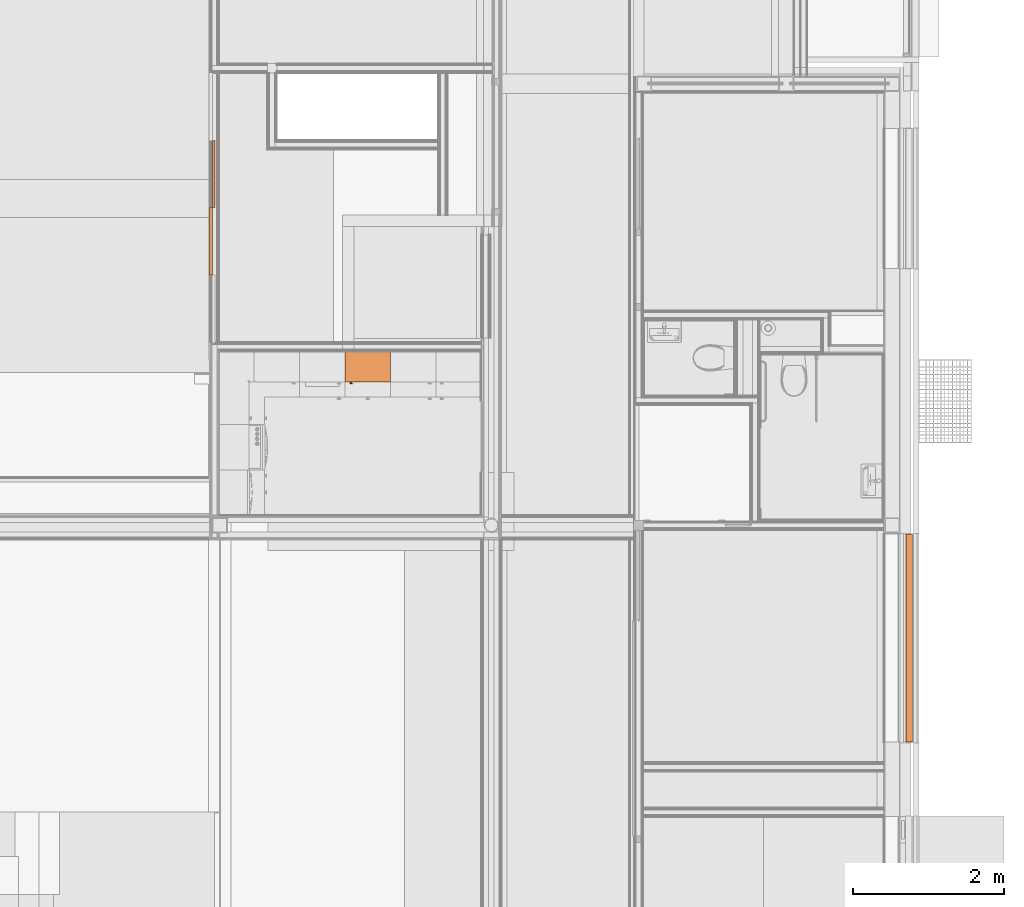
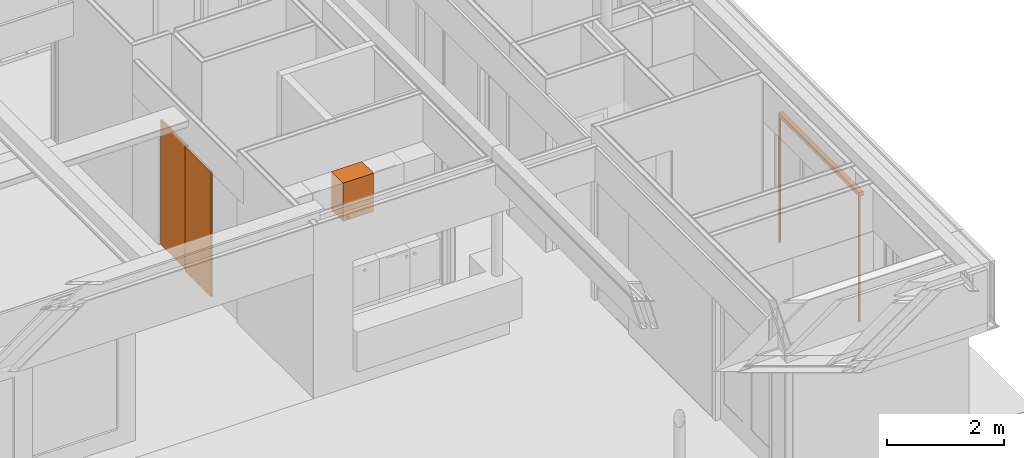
# One storey, part 132 of 165: 4 proxies.
"""IFC2X3 building model written with IfcOpenShell, lengths in millimetres."""

from ifc_helpers import new_model, entity, si_unit, converted_unit, derived_unit, money_unit, direction, frame, origin_with_axes, place, context, subcontext, project, spatial, open_shell, faceted_brep, surface_model, source, transform, mapped, type_object, type_shapes, element, save


model = new_model("IFC2X3")

# Units and contexts
model_context = context("Model", 3, precision=0.01, world=origin_with_axes(), true_north=direction((0.0, 1.0)))
body_context = subcontext(model_context, "Body", "Model", "MODEL_VIEW")
ifc_project = project(units=[si_unit("LENGTHUNIT", "METRE", prefix="MILLI"), si_unit("AREAUNIT", "SQUARE_METRE"), si_unit("VOLUMEUNIT", "CUBIC_METRE"), converted_unit("PLANEANGLEUNIT", "DEGREE", entity("IfcPlaneAngleMeasure", 0.0174532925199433), si_unit("PLANEANGLEUNIT", "RADIAN"), dimensions=[0, 0, 0, 0, 0, 0, 0]), money_unit("EUR"), converted_unit("TIMEUNIT", "Year", entity("IfcTimeMeasure", 31556926.0), si_unit("TIMEUNIT", "SECOND"), dimensions=[0, 0, 1, 0, 0, 0, 0]), si_unit("MASSUNIT", "GRAM", prefix="KILO"), si_unit("THERMODYNAMICTEMPERATUREUNIT", "DEGREE_CELSIUS"), si_unit("LUMINOUSINTENSITYUNIT", "LUMEN"), si_unit("ENERGYUNIT", "JOULE", prefix="MEGA"), derived_unit("THERMALCONDUCTANCEUNIT", [(si_unit("POWERUNIT", "WATT"), 1), (si_unit("LENGTHUNIT", "METRE"), -1), (si_unit("THERMODYNAMICTEMPERATUREUNIT", "KELVIN"), -1)]), derived_unit("SPECIFICHEATCAPACITYUNIT", [(si_unit("ENERGYUNIT", "JOULE"), 1), (si_unit("MASSUNIT", "GRAM", prefix="KILO"), -1), (si_unit("THERMODYNAMICTEMPERATUREUNIT", "KELVIN"), -1)]), derived_unit("MASSDENSITYUNIT", [(si_unit("MASSUNIT", "GRAM", prefix="KILO"), 1), (si_unit("VOLUMEUNIT", "CUBIC_METRE"), -1)])], contexts=[model_context])

# Site, building, storey
site_placement = place(None, origin_with_axes())
site = spatial("IfcSite", under=ifc_project, at=site_placement, Name="Site", CompositionType="ELEMENT")
building_placement = place(site_placement, origin_with_axes())
building = spatial("IfcBuilding", under=site, at=building_placement, Name="Naam gebouw", CompositionType="ELEMENT")
storey_placement = place(building_placement, origin_with_axes())
storey = spatial("IfcBuildingStorey", under=building, at=storey_placement, Name="Begane grond", CompositionType="ELEMENT", Elevation=0.0)

# Proxies
building_element_proxy_type_1 = type_object("IfcBuildingElementProxyType", Name="gevelbekleding", PredefinedType="NOTDEFINED")
shared_shape_1 = source(origin_with_axes(), body_context, "Body", "Brep", [
    faceted_brep([(-445.0, 0.0, 0.0), (-440.0, 0.0, 0.0), (-440.0, -35.0, 0.0), (-445.0, -35.0, 0.0), (-445.0, 0.0, 2600.0), (-440.0, 0.0, 2600.0), (-440.0, -35.0, 2600.0), (-445.0, -35.0, 2600.0)], [[[0, 1, 2, 3]], [[0, 4, 5, 1]], [[1, 5, 6, 2]], [[3, 2, 6, 7]], [[4, 0, 3, 7]], [[5, 4, 7, 6]]]),
    faceted_brep([(445.0, 0.0, 0.0), (445.0, 0.0, 2600.0), (445.0, -35.0, 2600.0), (445.0, -35.0, 0.0), (440.0, 0.0, 0.0), (440.0, 0.0, 2600.0), (440.0, -35.0, 2600.0), (440.0, -35.0, 0.0)], [[[0, 1, 2, 3]], [[0, 4, 5, 1]], [[1, 5, 6, 2]], [[3, 2, 6, 7]], [[4, 0, 3, 7]], [[5, 4, 7, 6]]]),
    faceted_brep([(-445.0, 0.0, 0.0), (445.0, 0.0, 0.0), (445.0, -35.0, 0.0), (-445.0, -35.0, 0.0), (-445.0, 0.0, 2600.0), (445.0, 0.0, 2600.0), (445.0, -35.0, 2600.0), (-445.0, -35.0, 2600.0)], [[[0, 1, 2, 3]], [[0, 4, 5, 1]], [[1, 5, 6, 2]], [[3, 2, 6, 7]], [[4, 0, 3, 7]], [[5, 4, 7, 6]]]),
])
proxy_1_placement = place(storey_placement, frame((20774.99906281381, 14119.99824205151, 0.0), z_axis=(0.0, 0.0, 1.0), x_axis=(0.0, 1.0, 0.0)))
element("IfcBuildingElementProxy", 1, at=proxy_1_placement, inside=storey, type_object=building_element_proxy_type_1, Name="_-", context=body_context, shape_type="MappedRepresentation", body=[
    mapped(shared_shape_1, transform((445.0000000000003, 0.0, 0.0))),
])
shared_shape_2 = source(origin_with_axes(), body_context, "Body", "Brep", [
    faceted_brep([(445.0, 0.0, 0.0), (445.0, -35.0, 0.0), (440.0, -35.0, 0.0), (440.0, 0.0, 0.0), (445.0, 0.0, 2600.0), (445.0, -35.0, 2600.0), (440.0, -35.0, 2600.0), (440.0, 0.0, 2600.0)], [[[0, 1, 2, 3]], [[4, 5, 1, 0]], [[1, 5, 6, 2]], [[3, 2, 6, 7]], [[0, 3, 7, 4]], [[7, 6, 5, 4]]]),
    faceted_brep([(-445.0, 0.0, 0.0), (-445.0, -35.0, 0.0), (-445.0, -35.0, 2600.0), (-445.0, 0.0, 2600.0), (-440.0, 0.0, 0.0), (-440.0, -35.0, 0.0), (-440.0, -35.0, 2600.0), (-440.0, 0.0, 2600.0)], [[[0, 1, 2, 3]], [[4, 5, 1, 0]], [[1, 5, 6, 2]], [[3, 2, 6, 7]], [[0, 3, 7, 4]], [[7, 6, 5, 4]]]),
    faceted_brep([(445.0, 0.0, 0.0), (445.0, -35.0, 0.0), (-445.0, -35.0, 0.0), (-445.0, 0.0, 0.0), (445.0, 0.0, 2600.0), (445.0, -35.0, 2600.0), (-445.0, -35.0, 2600.0), (-445.0, 0.0, 2600.0)], [[[0, 1, 2, 3]], [[4, 5, 1, 0]], [[1, 5, 6, 2]], [[3, 2, 6, 7]], [[0, 3, 7, 4]], [[7, 6, 5, 4]]]),
])
type_shapes(building_element_proxy_type_1, [shared_shape_1, shared_shape_2])
proxy_2_placement = place(storey_placement, frame((20774.99906281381, 15009.99824205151, 0.0), z_axis=(0.0, 0.0, 1.0), x_axis=(0.0, 1.0, 0.0)))
element("IfcBuildingElementProxy", 2, at=proxy_2_placement, inside=storey, type_object=building_element_proxy_type_1, Name="_-", context=body_context, shape_type="MappedRepresentation", body=[
    mapped(shared_shape_2, transform((445.0000000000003, -35.00000000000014, 0.0))),
])
building_element_proxy_type_2 = type_object("IfcBuildingElementProxyType", Name="Screen 26 KM", PredefinedType="NOTDEFINED")
shared_shape_3 = source(origin_with_axes(), body_context, "Body", "SurfaceModel", [
    faceted_brep([(0.0, 0.0, 0.0), (0.0, -30.0, 0.0), (0.0, -30.0, 2615.0), (0.0, 0.0, 2615.0), (40.0, 0.0, 0.0), (40.0, -4.999999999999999, 0.0), (37.0, -4.999999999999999, 0.0), (37.0, -3.0, 0.0), (3.0, -3.0, 0.0), (3.0, -27.0, 0.0), (37.0, -27.0, 0.0), (37.0, -25.0, 0.0), (40.0, -25.0, 0.0), (40.0, -30.0, 0.0), (40.0, -30.0, 2615.0), (40.0, -25.0, 2615.0), (37.0, -25.0, 2615.0), (37.0, -27.0, 2615.0), (3.0, -27.0, 2615.0), (3.0, -3.0, 2615.0), (37.0, -3.0, 2615.0), (37.0, -4.999999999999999, 2615.0), (40.0, -4.999999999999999, 2615.0), (40.0, 0.0, 2615.0)], [[[0, 1, 2, 3]], [[0, 4, 5, 6, 7, 8, 9, 10, 11, 12, 13, 1]], [[1, 13, 14, 2]], [[3, 2, 14, 15, 16, 17, 18, 19, 20, 21, 22, 23]], [[4, 0, 3, 23]], [[5, 4, 23, 22]], [[6, 5, 22, 21]], [[7, 6, 21, 20]], [[8, 7, 20, 19]], [[9, 8, 19, 18]], [[10, 9, 18, 17]], [[11, 10, 17, 16]], [[12, 11, 16, 15]], [[13, 12, 15, 14]]]),
    faceted_brep([(2750.0, 0.0, 0.0), (2750.0, 0.0, 2615.0), (2750.0, -30.0, 2615.0), (2750.0, -30.0, 0.0), (2710.0, 0.0, 0.0), (2710.0, 0.0, 2615.0), (2710.0, -4.999999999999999, 2615.0), (2713.0, -4.999999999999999, 2615.0), (2713.0, -3.0, 2615.0), (2747.0, -3.0, 2615.0), (2747.0, -27.0, 2615.0), (2713.0, -27.0, 2615.0), (2713.0, -25.0, 2615.0), (2710.0, -25.0, 2615.0), (2710.0, -30.0, 2615.0), (2710.0, -30.0, 0.0), (2710.0, -25.0, 0.0), (2713.0, -25.0, 0.0), (2713.0, -27.0, 0.0), (2747.0, -27.0, 0.0), (2747.0, -3.0, 0.0), (2713.0, -3.0, 0.0), (2713.0, -4.999999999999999, 0.0), (2710.0, -4.999999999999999, 0.0)], [[[0, 1, 2, 3]], [[4, 5, 1, 0]], [[1, 5, 6, 7, 8, 9, 10, 11, 12, 13, 14, 2]], [[3, 2, 14, 15]], [[0, 3, 15, 16, 17, 18, 19, 20, 21, 22, 23, 4]], [[23, 6, 5, 4]], [[22, 7, 6, 23]], [[21, 8, 7, 22]], [[20, 9, 8, 21]], [[19, 10, 9, 20]], [[18, 11, 10, 19]], [[17, 12, 11, 18]], [[16, 13, 12, 17]], [[15, 14, 13, 16]]]),
    surface_model("IfcShellBasedSurfaceModel", [(0.0, 0.0, 2700.0), (0.0, 0.0, 2615.0), (0.0, -85.0, 2615.0), (0.0, -85.0, 2700.0)], [open_shell([[[0, 1, 2, 3]]])]),
    surface_model("IfcShellBasedSurfaceModel", [(0.01, 0.0, 2700.0), (0.009999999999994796, -85.0, 2700.0), (2749.99, -85.00000000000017, 2700.0), (2749.99, 0.0, 2700.0), (0.01000000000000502, 0.0, 2618.0), (0.01000000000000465, -6.0, 2618.0), (0.01000000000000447, -6.0, 2621.0), (0.01000000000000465, -3.0, 2621.0), (0.01, -3.0, 2697.0), (0.009999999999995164, -82.0, 2697.0), (0.01, -82.0, 2618.0), (0.01000000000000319, -30.0, 2618.0), (0.01000000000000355, -30.0, 2612.0), (0.01000000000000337, -33.0, 2612.0), (0.01000000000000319, -33.0, 2615.0), (0.01, -85.0, 2615.0), (2749.99, -85.00000000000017, 2615.0), (2749.99, -33.00000000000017, 2615.0), (2749.99, -33.00000000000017, 2612.0), (2749.99, -30.00000000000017, 2612.0), (2749.99, -30.00000000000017, 2618.0), (2749.99, -82.00000000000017, 2618.0), (2749.99, -82.00000000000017, 2697.0), (2749.99, -3.000000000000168, 2697.0), (2749.99, -3.000000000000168, 2621.0), (2749.99, -6.000000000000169, 2621.0), (2749.99, -6.000000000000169, 2618.0), (2749.99, 0.0, 2618.0)], [open_shell([[[0, 1, 2, 3]], [[0, 4, 5, 6, 7, 8, 9, 10, 11, 12, 13, 14, 15, 1]], [[1, 15, 16, 2]], [[3, 2, 16, 17, 18, 19, 20, 21, 22, 23, 24, 25, 26, 27]], [[4, 0, 3, 27]], [[13, 12, 19, 18]], [[14, 13, 18, 17]], [[15, 14, 17, 16]]])]),
    surface_model("IfcShellBasedSurfaceModel", [(2749.99, 0.0, 2700.0), (2749.99, 0.0, 2615.0), (2749.99, -85.00000000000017, 2615.0), (2749.99, -85.00000000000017, 2700.0)], [open_shell([[[0, 1, 2, 3]]])]),
])
type_shapes(building_element_proxy_type_2, [shared_shape_3])
proxy_3_placement = place(storey_placement, frame((29982.0, 7945.000110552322, -8.0), z_axis=(0.0, 0.0, 1.0), x_axis=(0.0, 1.0, 0.0)))
element("IfcBuildingElementProxy", 3, at=proxy_3_placement, inside=storey, type_object=building_element_proxy_type_2, Name="_Object-x", context=body_context, shape_type="MappedRepresentation", body=[
    mapped(shared_shape_3, transform((0.0, 0.0, 0.0))),
])
building_element_proxy_type_3 = type_object("IfcBuildingElementProxyType", Name="Bovenkast recht 26", PredefinedType="NOTDEFINED")
shared_shape_4 = source(origin_with_axes(), body_context, "Body", "Brep", [
    faceted_brep([(-18.0, -380.0, 1891.0), (-18.0, -380.0, 1909.0), (-582.0, -380.0, 1909.0), (-582.0, -380.0, 1891.0), (-18.0, -18.0, 1891.0), (-18.0, -18.0, 1909.0), (-582.0, -18.0, 1909.0), (-582.0, -18.0, 1891.0)], [[[0, 1, 2, 3]], [[4, 5, 1, 0]], [[1, 5, 6, 2]], [[3, 2, 6, 7]], [[0, 3, 7, 4]], [[7, 6, 5, 4]]]),
    faceted_brep([(-531.8176930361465, -398.0, 1570.916221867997), (-532.0, -398.0, 1573.0), (-531.8176930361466, -398.0, 1575.083778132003), (-531.2763114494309, -398.0, 1577.104241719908), (-530.3923048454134, -398.0, 1579.0), (-529.1925333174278, -398.0, 1580.713451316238), (-527.7134513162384, -398.0, 1582.192533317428), (-526.0, -398.0, 1583.392304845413), (-524.104241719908, -398.0, 1584.276311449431), (-522.0837781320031, -398.0, 1584.817693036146), (-520.0, -398.0, 1585.0), (-517.9162218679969, -398.0, 1584.817693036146), (-515.8957582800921, -398.0, 1584.276311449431), (-514.0, -398.0, 1583.392304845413), (-512.2865486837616, -398.0, 1582.192533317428), (-510.8074666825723, -398.0, 1580.713451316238), (-509.6076951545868, -398.0, 1579.0), (-508.7236885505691, -398.0, 1577.104241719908), (-508.1823069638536, -398.0, 1575.083778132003), (-508.0, -398.0, 1573.0), (-508.1823069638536, -398.0, 1570.916221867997), (-508.7236885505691, -398.0, 1568.895758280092), (-509.6076951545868, -398.0, 1567.0), (-510.8074666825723, -398.0, 1565.286548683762), (-512.2865486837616, -398.0, 1563.807466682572), (-514.0, -398.0, 1562.607695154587), (-515.8957582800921, -398.0, 1561.723688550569), (-517.9162218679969, -398.0, 1561.182306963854), (-520.0, -398.0, 1561.0), (-522.0837781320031, -398.0, 1561.182306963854), (-524.104241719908, -398.0, 1561.723688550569), (-526.0, -398.0, 1562.607695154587), (-527.7134513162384, -398.0, 1563.807466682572), (-529.1925333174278, -398.0, 1565.286548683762), (-530.3923048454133, -398.0, 1567.0), (-531.2763114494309, -398.0, 1568.895758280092), (-531.8176930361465, -418.0000000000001, 1570.916221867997), (-532.0, -418.0000000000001, 1573.0), (-531.8176930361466, -418.0000000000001, 1575.083778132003), (-531.2763114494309, -418.0000000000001, 1577.104241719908), (-530.3923048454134, -418.0000000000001, 1579.0), (-529.1925333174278, -418.0000000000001, 1580.713451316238), (-527.7134513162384, -418.0000000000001, 1582.192533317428), (-526.0, -418.0000000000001, 1583.392304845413), (-524.104241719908, -418.0000000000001, 1584.276311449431), (-522.0837781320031, -418.0000000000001, 1584.817693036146), (-520.0, -418.0000000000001, 1585.0), (-517.9162218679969, -418.0000000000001, 1584.817693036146), (-515.8957582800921, -418.0000000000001, 1584.276311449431), (-514.0, -418.0000000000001, 1583.392304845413), (-512.2865486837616, -418.0000000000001, 1582.192533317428), (-510.8074666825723, -418.0000000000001, 1580.713451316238), (-509.6076951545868, -418.0000000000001, 1579.0), (-508.7236885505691, -418.0000000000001, 1577.104241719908), (-508.1823069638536, -418.0000000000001, 1575.083778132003), (-508.0, -418.0000000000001, 1573.0), (-508.1823069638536, -418.0000000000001, 1570.916221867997), (-508.7236885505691, -418.0000000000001, 1568.895758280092), (-509.6076951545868, -418.0000000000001, 1567.0), (-510.8074666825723, -418.0000000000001, 1565.286548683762), (-512.2865486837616, -418.0000000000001, 1563.807466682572), (-514.0, -418.0000000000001, 1562.607695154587), (-515.8957582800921, -418.0000000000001, 1561.723688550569), (-517.9162218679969, -418.0000000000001, 1561.182306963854), (-520.0, -418.0000000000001, 1561.0), (-522.0837781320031, -418.0000000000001, 1561.182306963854), (-524.104241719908, -418.0000000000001, 1561.723688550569), (-526.0, -418.0000000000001, 1562.607695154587), (-527.7134513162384, -418.0000000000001, 1563.807466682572), (-529.1925333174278, -418.0000000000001, 1565.286548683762), (-530.3923048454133, -418.0000000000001, 1567.0), (-531.2763114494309, -418.0000000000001, 1568.895758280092)], [[[0, 1, 2, 3, 4, 5, 6, 7, 8, 9, 10, 11, 12, 13, 14, 15, 16, 17, 18, 19, 20, 21, 22, 23, 24, 25, 26, 27, 28, 29, 30, 31, 32, 33, 34, 35]], [[0, 36, 37, 1]], [[1, 37, 38, 2]], [[2, 38, 39, 3]], [[3, 39, 40, 4]], [[4, 40, 41, 5]], [[5, 41, 42, 6]], [[6, 42, 43, 7]], [[7, 43, 44, 8]], [[8, 44, 45, 9]], [[9, 45, 46, 10]], [[10, 46, 47, 11]], [[11, 47, 48, 12]], [[12, 48, 49, 13]], [[13, 49, 50, 14]], [[14, 50, 51, 15]], [[15, 51, 52, 16]], [[16, 52, 53, 17]], [[17, 53, 54, 18]], [[18, 54, 55, 19]], [[19, 55, 56, 20]], [[20, 56, 57, 21]], [[21, 57, 58, 22]], [[22, 58, 59, 23]], [[23, 59, 60, 24]], [[24, 60, 61, 25]], [[25, 61, 62, 26]], [[26, 62, 63, 27]], [[27, 63, 64, 28]], [[28, 64, 65, 29]], [[29, 65, 66, 30]], [[30, 66, 67, 31]], [[31, 67, 68, 32]], [[32, 68, 69, 33]], [[33, 69, 70, 34]], [[34, 70, 71, 35]], [[35, 71, 36, 0]], [[36, 71, 70, 69, 68, 67, 66, 65, 64, 63, 62, 61, 60, 59, 58, 57, 56, 55, 54, 53, 52, 51, 50, 49, 48, 47, 46, 45, 44, 43, 42, 41, 40, 39, 38, 37]]]),
    faceted_brep([(-543.635386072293, -418.0000000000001, 1568.832443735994), (-544.0, -418.0000000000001, 1573.0), (-543.635386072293, -418.0000000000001, 1577.167556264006), (-542.5526228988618, -418.0000000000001, 1581.208483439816), (-540.7846096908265, -418.0000000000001, 1585.0), (-538.3850666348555, -418.0000000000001, 1588.426902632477), (-535.426902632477, -418.0000000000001, 1591.385066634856), (-532.0, -418.0000000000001, 1593.784609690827), (-528.2084834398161, -418.0000000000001, 1595.552622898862), (-524.1675562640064, -418.0000000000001, 1596.635386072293), (-520.0, -418.0000000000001, 1597.0), (-515.8324437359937, -418.0000000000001, 1596.635386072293), (-511.7915165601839, -418.0000000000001, 1595.552622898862), (-508.0, -418.0000000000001, 1593.784609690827), (-504.5730973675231, -418.0000000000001, 1591.385066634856), (-501.6149333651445, -418.0000000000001, 1588.426902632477), (-499.2153903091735, -418.0000000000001, 1585.0), (-497.4473771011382, -418.0000000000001, 1581.208483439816), (-496.364613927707, -418.0000000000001, 1577.167556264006), (-496.0000000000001, -418.0000000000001, 1573.0), (-496.364613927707, -418.0000000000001, 1568.832443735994), (-497.4473771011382, -418.0000000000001, 1564.791516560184), (-499.2153903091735, -418.0000000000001, 1561.0), (-501.6149333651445, -418.0000000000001, 1557.573097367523), (-504.5730973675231, -418.0000000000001, 1554.614933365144), (-508.0, -418.0000000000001, 1552.215390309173), (-511.7915165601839, -418.0000000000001, 1550.447377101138), (-515.8324437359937, -418.0000000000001, 1549.364613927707), (-520.0, -418.0000000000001, 1549.0), (-524.1675562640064, -418.0000000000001, 1549.364613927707), (-528.2084834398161, -418.0000000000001, 1550.447377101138), (-532.0, -418.0000000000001, 1552.215390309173), (-535.426902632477, -418.0000000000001, 1554.614933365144), (-538.3850666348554, -418.0000000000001, 1557.573097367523), (-540.7846096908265, -418.0000000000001, 1561.0), (-542.5526228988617, -418.0000000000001, 1564.791516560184), (-543.635386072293, -428.0000000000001, 1568.832443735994), (-544.0, -428.0000000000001, 1573.0), (-543.635386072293, -428.0000000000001, 1577.167556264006), (-542.5526228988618, -428.0000000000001, 1581.208483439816), (-540.7846096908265, -428.0000000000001, 1585.0), (-538.3850666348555, -428.0000000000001, 1588.426902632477), (-535.426902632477, -428.0000000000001, 1591.385066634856), (-532.0, -428.0000000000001, 1593.784609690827), (-528.2084834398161, -428.0000000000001, 1595.552622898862), (-524.1675562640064, -428.0000000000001, 1596.635386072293), (-520.0, -428.0000000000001, 1597.0), (-515.8324437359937, -428.0000000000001, 1596.635386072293), (-511.7915165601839, -428.0000000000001, 1595.552622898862), (-508.0, -428.0000000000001, 1593.784609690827), (-504.5730973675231, -428.0000000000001, 1591.385066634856), (-501.6149333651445, -428.0000000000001, 1588.426902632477), (-499.2153903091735, -428.0000000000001, 1585.0), (-497.4473771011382, -428.0000000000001, 1581.208483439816), (-496.364613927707, -428.0000000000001, 1577.167556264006), (-496.0000000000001, -428.0000000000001, 1573.0), (-496.364613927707, -428.0000000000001, 1568.832443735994), (-497.4473771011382, -428.0000000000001, 1564.791516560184), (-499.2153903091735, -428.0000000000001, 1561.0), (-501.6149333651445, -428.0000000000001, 1557.573097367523), (-504.5730973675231, -428.0000000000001, 1554.614933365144), (-508.0, -428.0000000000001, 1552.215390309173), (-511.7915165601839, -428.0000000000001, 1550.447377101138), (-515.8324437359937, -428.0000000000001, 1549.364613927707), (-520.0, -428.0000000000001, 1549.0), (-524.1675562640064, -428.0000000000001, 1549.364613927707), (-528.2084834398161, -428.0000000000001, 1550.447377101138), (-532.0, -428.0000000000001, 1552.215390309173), (-535.426902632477, -428.0000000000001, 1554.614933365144), (-538.3850666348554, -428.0000000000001, 1557.573097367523), (-540.7846096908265, -428.0000000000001, 1561.0), (-542.5526228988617, -428.0000000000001, 1564.791516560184)], [[[0, 1, 2, 3, 4, 5, 6, 7, 8, 9, 10, 11, 12, 13, 14, 15, 16, 17, 18, 19, 20, 21, 22, 23, 24, 25, 26, 27, 28, 29, 30, 31, 32, 33, 34, 35]], [[0, 36, 37, 1]], [[1, 37, 38, 2]], [[2, 38, 39, 3]], [[3, 39, 40, 4]], [[4, 40, 41, 5]], [[5, 41, 42, 6]], [[6, 42, 43, 7]], [[7, 43, 44, 8]], [[8, 44, 45, 9]], [[9, 45, 46, 10]], [[10, 46, 47, 11]], [[11, 47, 48, 12]], [[12, 48, 49, 13]], [[13, 49, 50, 14]], [[14, 50, 51, 15]], [[15, 51, 52, 16]], [[16, 52, 53, 17]], [[17, 53, 54, 18]], [[18, 54, 55, 19]], [[19, 55, 56, 20]], [[20, 56, 57, 21]], [[21, 57, 58, 22]], [[22, 58, 59, 23]], [[23, 59, 60, 24]], [[24, 60, 61, 25]], [[25, 61, 62, 26]], [[26, 62, 63, 27]], [[27, 63, 64, 28]], [[28, 64, 65, 29]], [[29, 65, 66, 30]], [[30, 66, 67, 31]], [[31, 67, 68, 32]], [[32, 68, 69, 33]], [[33, 69, 70, 34]], [[34, 70, 71, 35]], [[35, 71, 36, 0]], [[36, 71, 70, 69, 68, 67, 66, 65, 64, 63, 62, 61, 60, 59, 58, 57, 56, 55, 54, 53, 52, 51, 50, 49, 48, 47, 46, 45, 44, 43, 42, 41, 40, 39, 38, 37]]]),
    faceted_brep([(-1.0, -380.0, 1501.0), (-1.0, -398.0, 1501.0), (-599.0, -398.0, 1501.0), (-599.0, -380.0, 1501.0), (-1.0, -379.9999999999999, 2299.0), (-1.0, -397.9999999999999, 2299.0), (-599.0, -397.9999999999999, 2299.0), (-599.0, -379.9999999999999, 2299.0)], [[[0, 1, 2, 3]], [[4, 5, 1, 0]], [[1, 5, 6, 2]], [[3, 2, 6, 7]], [[0, 3, 7, 4]], [[7, 6, 5, 4]]]),
    faceted_brep([(-18.0, -380.0, 1500.0), (-18.0, -380.0, 1518.0), (-582.0, -380.0, 1518.0), (-582.0, -380.0, 1500.0), (-18.0, 0.0, 1500.0), (-18.0, 0.0, 1518.0), (-582.0, 0.0, 1518.0), (-582.0, 0.0, 1500.0)], [[[0, 1, 2, 3]], [[4, 5, 1, 0]], [[1, 5, 6, 2]], [[3, 2, 6, 7]], [[0, 3, 7, 4]], [[7, 6, 5, 4]]]),
    faceted_brep([(-18.0, -380.0, 2282.0), (-18.0, -380.0, 2300.0), (-582.0, -380.0, 2300.0), (-582.0, -380.0, 2282.0), (-18.0, 0.0, 2282.0), (-18.0, 0.0, 2300.0), (-582.0, 0.0, 2300.0), (-582.0, 0.0, 2282.0)], [[[0, 1, 2, 3]], [[4, 5, 1, 0]], [[1, 5, 6, 2]], [[3, 2, 6, 7]], [[0, 3, 7, 4]], [[7, 6, 5, 4]]]),
    faceted_brep([(0.0, 0.0, 1500.0), (0.0, 0.0, 2300.0), (0.0, -380.0, 2300.0), (0.0, -380.0, 1500.0), (-18.0, 0.0, 1500.0), (-18.0, 0.0, 2300.0), (-18.0, -380.0, 2300.0), (-18.0, -380.0, 1500.0)], [[[0, 1, 2, 3]], [[4, 5, 1, 0]], [[1, 5, 6, 2]], [[3, 2, 6, 7]], [[0, 3, 7, 4]], [[7, 6, 5, 4]]]),
    faceted_brep([(-600.0, -380.0, 1500.0), (-600.0, -380.0, 2300.0), (-600.0, 0.0, 2300.0), (-600.0, 0.0, 1500.0), (-582.0, -380.0, 1500.0), (-582.0, -380.0, 2300.0), (-582.0, 0.0, 2300.0), (-582.0, 0.0, 1500.0)], [[[0, 1, 2, 3]], [[4, 5, 1, 0]], [[1, 5, 6, 2]], [[3, 2, 6, 7]], [[0, 3, 7, 4]], [[7, 6, 5, 4]]]),
    faceted_brep([(-582.0, -9.0, 1518.0), (-582.0, -9.0, 2282.0), (-18.00000000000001, -9.0, 2282.0), (-18.00000000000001, -9.0, 1518.0), (-582.0, -18.0, 1518.0), (-582.0, -18.0, 2282.0), (-18.00000000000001, -18.0, 2282.0), (-18.00000000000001, -18.0, 1518.0)], [[[0, 1, 2, 3]], [[4, 5, 1, 0]], [[1, 5, 6, 2]], [[3, 2, 6, 7]], [[0, 3, 7, 4]], [[7, 6, 5, 4]]]),
])
type_shapes(building_element_proxy_type_3, [shared_shape_4])
proxy_4_placement = place(storey_placement, frame((23164.99903999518, 13104.99770206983, 300.0000000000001), z_axis=(0.0, 0.0, 1.0), x_axis=(1.0, 0.0, 0.0)))
element("IfcBuildingElementProxy", 4, at=proxy_4_placement, inside=storey, type_object=building_element_proxy_type_3, Name="_Leeg", context=body_context, shape_type="MappedRepresentation", body=[
    mapped(shared_shape_4, transform((0.0, 0.0, 0.0))),
])

save(model, "model.ifc")
